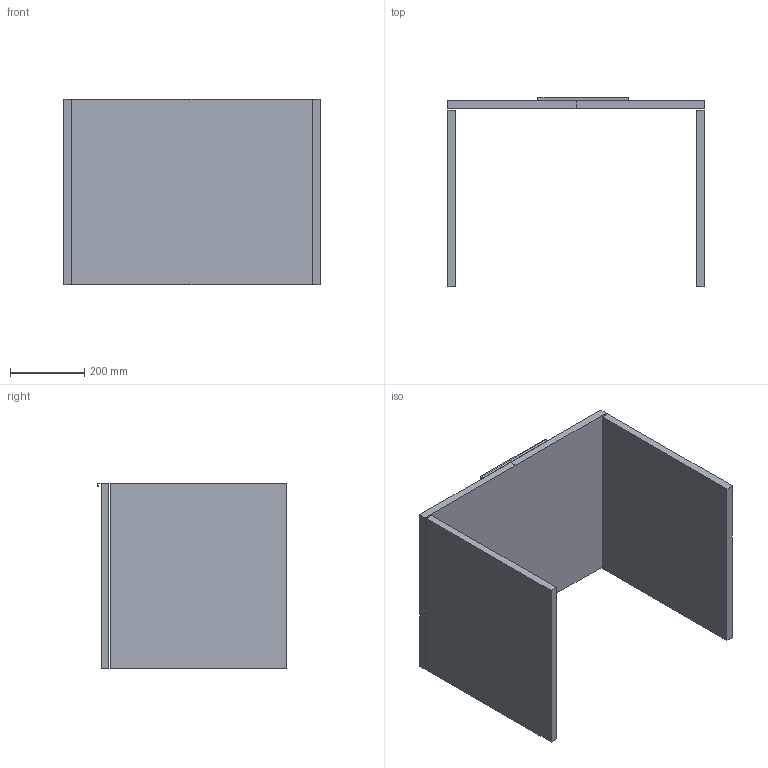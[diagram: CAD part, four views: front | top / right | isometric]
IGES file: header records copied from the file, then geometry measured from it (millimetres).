
Start section: START RECORD GO HERE.
Global section: file name: 5470.igs; native system: DASSAULT SYSTEMES CATIA V5 R19 - www.3ds.com; preprocessor: CATIA Version 5 Release 19 SP 5 ; author: gioge; organization: LAPTOP-G94B6G74; date: 20201003.150251; units: millimetre
Bounding box: 690 x 510 x 500 mm (x, y, z)
Surface area: 1775472 mm2 (no closed solid volume)
Topology: 0 solids, 0 shells, 28 faces, 120 edges, 120 vertices
Faces by surface type: plane 28
